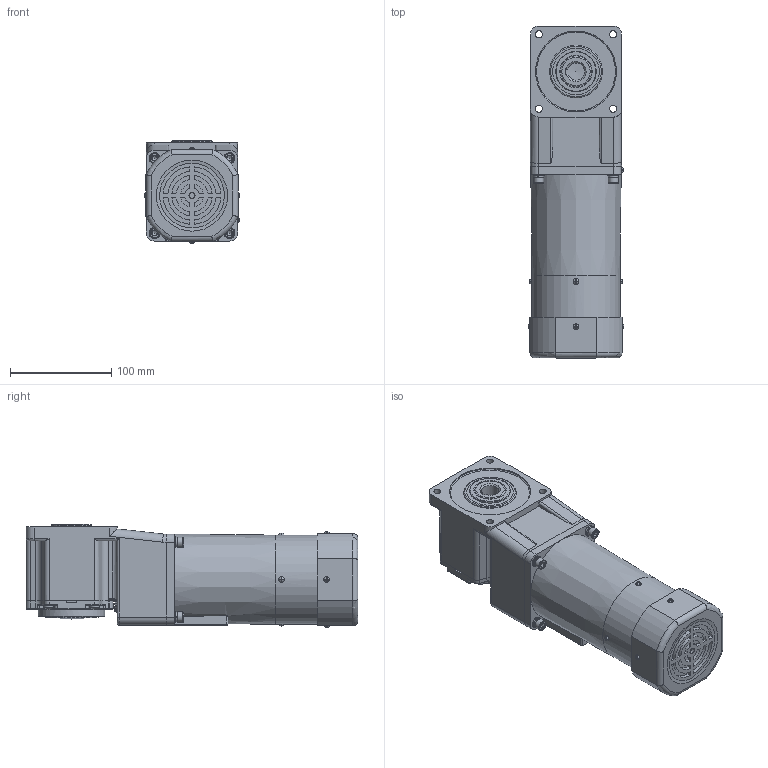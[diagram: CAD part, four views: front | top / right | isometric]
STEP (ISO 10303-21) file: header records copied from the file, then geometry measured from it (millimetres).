
FILE_DESCRIPTION(/* description */ (''),/* implementation_level */ '2;1');
FILE_NAME(/* name */ '90+中空直角-刹车调速风叶-90W.stp',/* time_stamp */ '2022-09-27T12:37:22+08:00',/* author */ (''),/* organization */ (''),/* preprocessor_version */ 'ST-DEVELOPER v16.7',/* originating_system */ 'SIEMENS PLM Software NX 1899',/* authorisation */ '');
FILE_SCHEMA (('AP203_CONFIGURATION_CONTROLLED_3D_DESIGN_OF_MECHANICAL_PARTS_AND_ASSEMBLIES_MIM_LF { 1 0 10303 403 2 1 2}'));
Length unit declared in the file: millimetre
Products named in the file (1): yf1815905F60uhb3
Bounding box: 94.81 x 328 x 101.91 mm (x, y, z)
Volume: 2204781 mm3; surface area: 178229 mm2
Topology: 15 solids, 15 shells, 816 faces, 1959 edges, 1213 vertices
Faces by surface type: plane 443, cylinder 238, torus 63, cone 50, bspline 12, sphere 10
Full cylindrical faces by diameter (mm): 3.3 x2, 4.5 x2, 5 x4, 5.5 x4, 5.795 x4, 6 x1, 6.4 x4, 7 x8, 9.5 x4, 10 x4, 11 x4, 30 x2, 40 x1, 47 x1, 47.5 x1, 52 x1, 60 x1, 60.5 x1, 66 x1, 67 x1, 76 x1, 80 x1, 86 x2, 87.914 x1
Entity records: 25625 total; most frequent: CARTESIAN_POINT 6282, DIRECTION 3766, ORIENTED_EDGE 3538, EDGE_CURVE 1769, AXIS2_PLACEMENT_3D 1443, VERTEX_POINT 1153, EDGE_LOOP 1006, LINE 880
